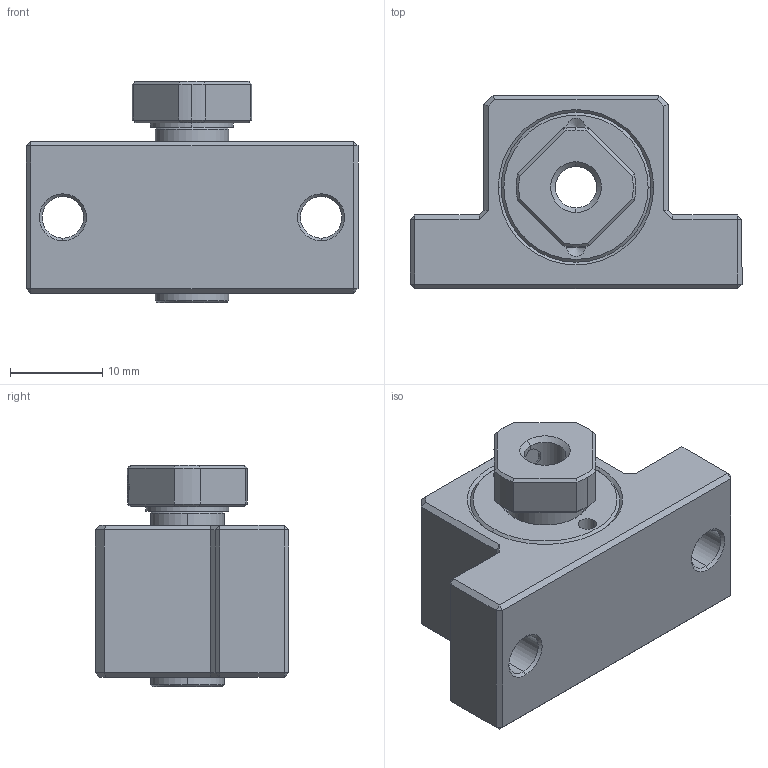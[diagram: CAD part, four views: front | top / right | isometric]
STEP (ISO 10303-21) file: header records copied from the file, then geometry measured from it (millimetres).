
FILE_DESCRIPTION (( 'STEP AP203' ), '1' );
FILE_NAME ('ESGK-5-P0-C7_203.STEP', '2013-02-26T01:40:48', ( '' ), ( '' ), 'SwSTEP 2.0', 'SolidWorks 2012', '' );
FILE_SCHEMA (( 'CONFIG_CONTROL_DESIGN' ));
Length unit declared in the file: millimetre
Products named in the file (1): ESGK-5-P0-C7_203
Bounding box: 36 x 21 x 24 mm (x, y, z)
Volume: 8809.3 mm3; surface area: 4561.5 mm2
Topology: 1 solids, 6 shells, 213 faces, 459 edges, 261 vertices
Faces by surface type: plane 86, cone 60, cylinder 51, torus 16
Entity records: 5814 total; most frequent: CARTESIAN_POINT 1087, DIRECTION 1031, ORIENTED_EDGE 906, EDGE_CURVE 453, AXIS2_PLACEMENT_3D 395, VERTEX_POINT 261, LINE 241, VECTOR 241
